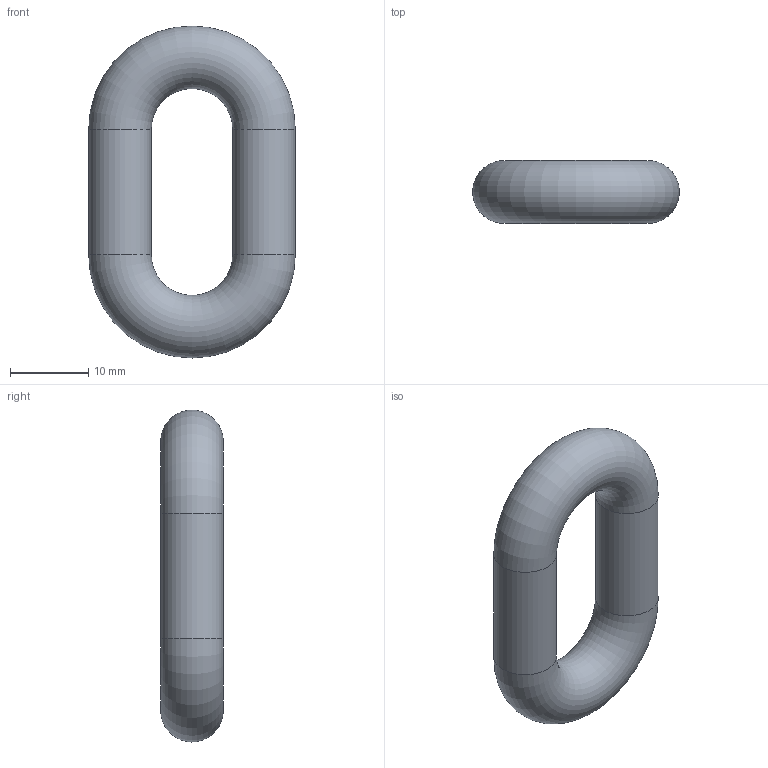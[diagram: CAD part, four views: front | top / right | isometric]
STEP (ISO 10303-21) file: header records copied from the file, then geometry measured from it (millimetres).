
FILE_DESCRIPTION(('Open CASCADE Model'),'2;1');
FILE_NAME('Open CASCADE Shape Model','2026-10-20T13:19:56',('Author'),( 'Open CASCADE'),'Open CASCADE STEP processor 7.9','Open CASCADE 7.9' ,'Unknown');
FILE_SCHEMA(('AUTOMOTIVE_DESIGN { 1 0 10303 214 1 1 1 1 }'));
Length unit declared in the file: millimetre
Products named in the file (1): Open CASCADE STEP translator 7.9 97
Bounding box: 26.4 x 8 x 42.4 mm (x, y, z)
Volume: 4514.1 mm3; surface area: 2257.1 mm2
Topology: 1 solids, 1 shells, 4 faces, 8 edges, 4 vertices
Faces by surface type: cylinder 2, torus 2
Full cylindrical faces by diameter (mm): 8 x2
Entity records: 216 total; most frequent: CARTESIAN_POINT 41, DIRECTION 32, ORIENTED_EDGE 16, PCURVE 16, DEFINITIONAL_REPRESENTATION 16, AXIS2_PLACEMENT_3D 11, LINE 10, VECTOR 10
